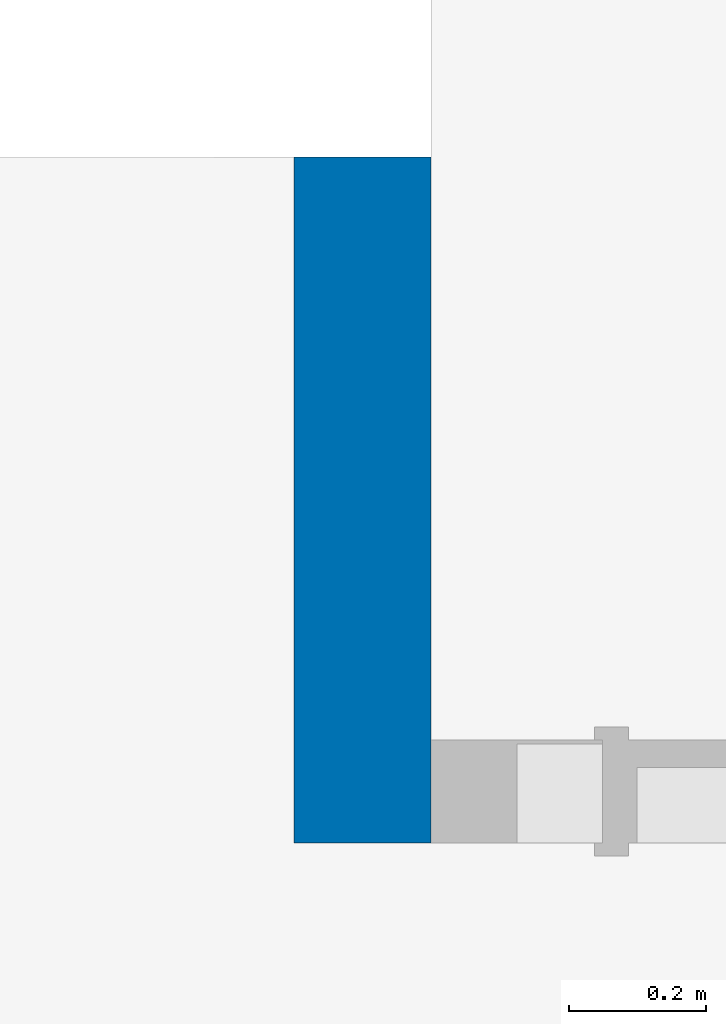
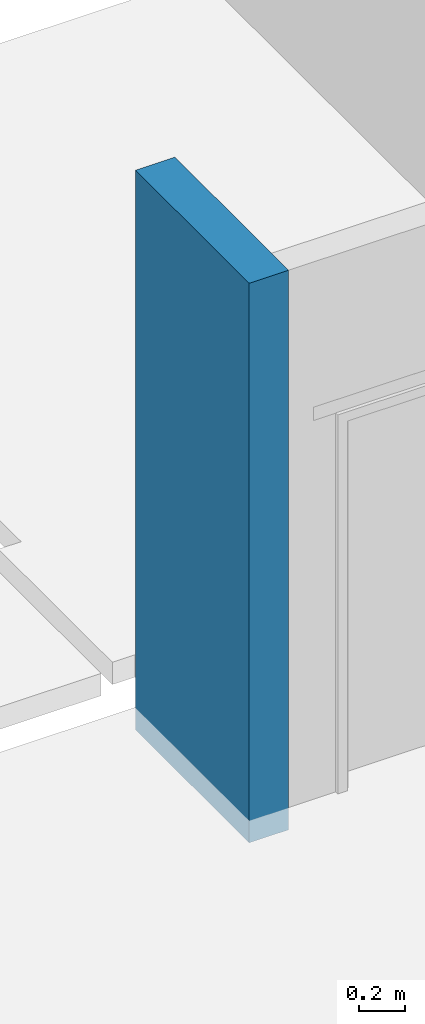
# One storey, part 11 of 17: 1 wall.
"""IFC4 building model written with IfcOpenShell, lengths in millimetres."""

from ifc_helpers import new_model, entity, si_unit, converted_unit, derived_unit, direction, frame, origin_with_axes, place, context, subcontext, project, spatial, polygons, material, constituent, constituent_set, type_object, element, save


model = new_model("IFC4")

# Units and contexts
model_context = context("Model", 3, precision=0.01, world=origin_with_axes(), true_north=direction((0.0, 1.0)))
body_context = subcontext(model_context, "Body", "Model", "MODEL_VIEW")
ifc_project = project(units=[si_unit("LENGTHUNIT", "METRE", prefix="MILLI"), si_unit("AREAUNIT", "SQUARE_METRE"), si_unit("VOLUMEUNIT", "CUBIC_METRE"), converted_unit("PLANEANGLEUNIT", "DEGREE", entity("IfcPlaneAngleMeasure", 0.0174532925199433), si_unit("PLANEANGLEUNIT", "RADIAN"), dimensions=[0, 0, 0, 0, 0, 0, 0]), converted_unit("TIMEUNIT", "Year", entity("IfcTimeMeasure", 31557600.0), si_unit("TIMEUNIT", "SECOND"), dimensions=[0, 0, 1, 0, 0, 0, 0]), si_unit("MASSUNIT", "GRAM", prefix="KILO"), si_unit("THERMODYNAMICTEMPERATUREUNIT", "DEGREE_CELSIUS"), si_unit("LUMINOUSINTENSITYUNIT", "LUMEN"), si_unit("ENERGYUNIT", "JOULE", prefix="MEGA"), derived_unit("THERMALCONDUCTANCEUNIT", [(si_unit("POWERUNIT", "WATT"), 1), (si_unit("LENGTHUNIT", "METRE"), -1), (si_unit("THERMODYNAMICTEMPERATUREUNIT", "KELVIN"), -1)]), derived_unit("SPECIFICHEATCAPACITYUNIT", [(si_unit("ENERGYUNIT", "JOULE"), 1), (si_unit("MASSUNIT", "GRAM", prefix="KILO"), -1), (si_unit("THERMODYNAMICTEMPERATUREUNIT", "KELVIN"), -1)]), derived_unit("MASSDENSITYUNIT", [(si_unit("MASSUNIT", "GRAM", prefix="KILO"), 1), (si_unit("VOLUMEUNIT", "CUBIC_METRE"), -1)])], contexts=[model_context])

# Site, building, storey
site_placement = place(None, origin_with_axes())
site = spatial("IfcSite", under=ifc_project, at=site_placement, Name="Exteriér", CompositionType="ELEMENT")
building_placement = place(site_placement, origin_with_axes())
building = spatial("IfcBuilding", under=site, at=building_placement, Name="Univerzitní lezecké centrum", CompositionType="ELEMENT")
storey_placement = place(building_placement, frame((0.0, 0.0, 3200.0), z_axis=(0.0, 0.0, 1.0), x_axis=(1.0, 0.0, 0.0)))
storey = spatial("IfcBuildingStorey", under=building, at=storey_placement, Name="2.NP", CompositionType="ELEMENT", Elevation=3200.0)

# Wall
ifc_material = material(Name="Keramické tvárnice nenosné tl 200 mm")
ifc_constituent = constituent(ifc_material, Name="Keramické tvárnice nenosné tl 200 mm")
ifc_constituent_set = constituent_set(constituents=[ifc_constituent], Name="!Vnitřní keramická stěna 200 mm - nenosná")
wall_type = type_object("IfcWallType", Name="!Vnitřní keramická stěna 200 mm - nenosná 200", PredefinedType="NOTDEFINED")
wall_placement = place(storey_placement, frame((4699.951161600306, -299.1634134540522, -220.0000000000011), z_axis=(0.0, 0.0, 1.0), x_axis=(0.0, -1.0, 0.0)))
element("IfcWall", 1, at=wall_placement, inside=storey, type_object=wall_type, material=ifc_constituent_set, Name="St06", PredefinedType="NOTDEFINED", context=body_context, shape_type="Tessellation", body=[
    polygons([(0.0425517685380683, -5.773559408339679e-07, 2800.000000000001), (0.0, 200.0000000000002, 2800.000000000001), (0.0, 200.0000000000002, 100.0000000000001), (0.04255176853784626, 0.0, 100.0000000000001), (1.000000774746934, 200.0000000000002, 2800.000000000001), (1.000000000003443, -5.810649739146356e-07, 2800.000000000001), (1.000000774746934, 200.0000000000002, 3100.0), (1000.449385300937, 199.9999999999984, 3100.0), (1000.449398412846, 199.9999999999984, 100.0000000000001), (850.4493805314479, 199.9999999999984, 100.0000000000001), (850.4493805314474, 0.0, 100.0000000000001), (1000.449398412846, 0.0, 100.0000000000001), (1000.449384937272, 0.0, 3100.0), (1.000000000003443, -5.810649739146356e-07, 3100.0)], [[[1, 2, 3, 4]], [[5, 2, 1, 6]], [[5, 7, 8, 9, 10, 3, 2]], [[11, 4, 3, 10, 9, 12]], [[6, 1, 4, 11, 12, 13, 14]], [[14, 7, 5, 6]], [[7, 14, 13, 8]], [[9, 8, 13, 12]]], closed=True),
])

save(model, "model.ifc")
